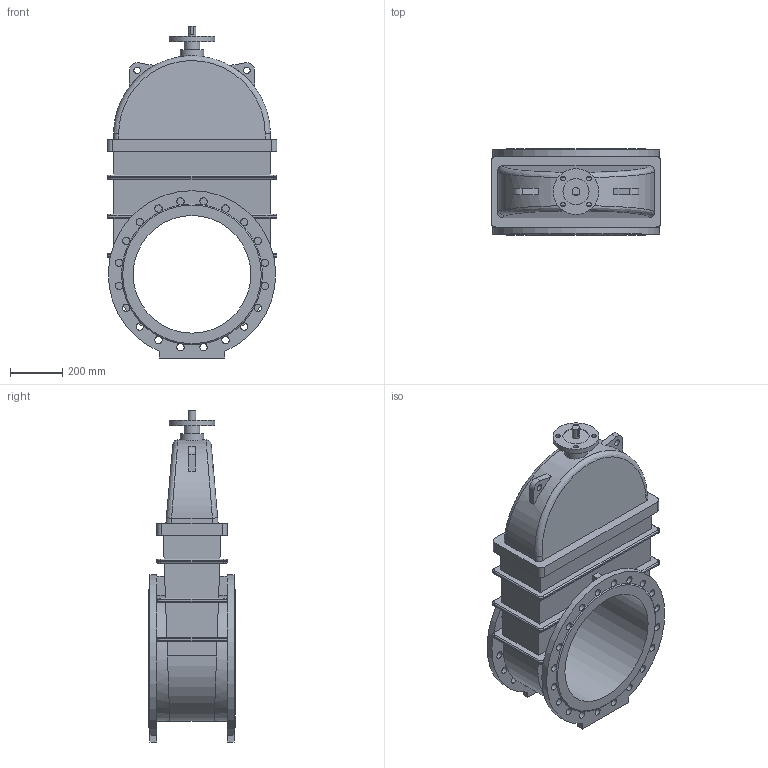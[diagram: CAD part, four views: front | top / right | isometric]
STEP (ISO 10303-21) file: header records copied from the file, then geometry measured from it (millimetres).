
FILE_DESCRIPTION(('STEP AP203'), '1');
FILE_NAME('Çàäâèæêà 47GVA.Z DN450 PN10 áåç èñïîëíèò. ìåõ.', '', ('UNSPECIFIED'), ('UNSPECIFIED'), 'ASCON STEP Converter 1.6', 'ASCON Math Kernel', '');
FILE_SCHEMA(('CONFIG_CONTROL_DESIGN'));
Length unit declared in the file: millimetre
Bounding box: 650 x 330 x 1270 mm (x, y, z)
Volume: 96866194.5 mm3; surface area: 3078432.7 mm2
Topology: 1 solids, 1 shells, 250 faces, 756 edges, 486 vertices
Faces by surface type: cylinder 121, plane 101, bspline 26, cone 2
Full cylindrical faces by diameter (mm): 18 x4, 25 x2, 28 x40, 30 x1, 60 x1, 90 x1, 100 x1, 175 x1, 450 x1
Entity records: 15340 total; most frequent: CARTESIAN_POINT 6756, ORIENTED_EDGE 1404, DIRECTION 1287, EDGE_CURVE 702, AXIS2_PLACEMENT_3D 500, VERTEX_POINT 486, EDGE_LOOP 376, FACE_BOUND 311
